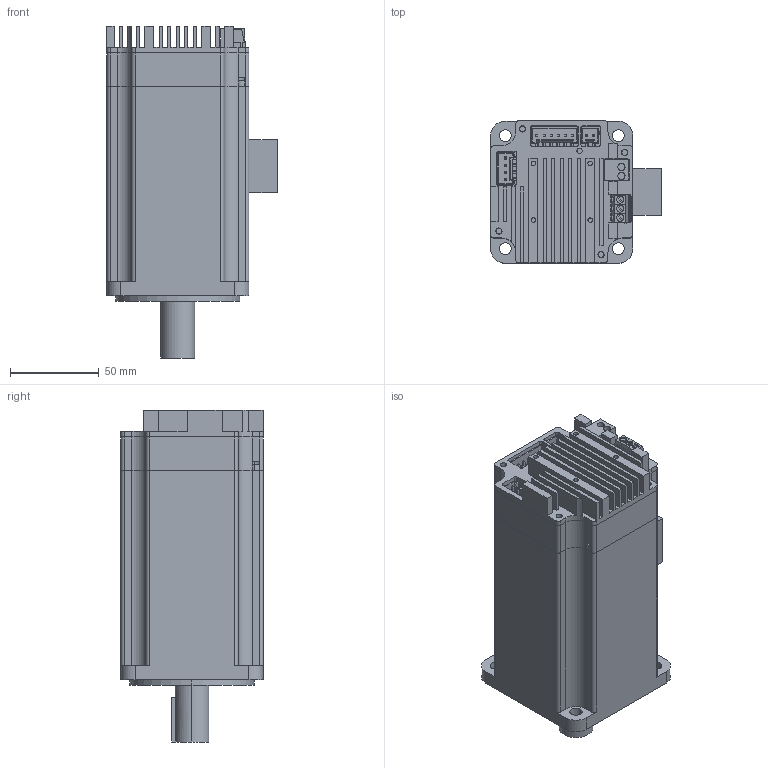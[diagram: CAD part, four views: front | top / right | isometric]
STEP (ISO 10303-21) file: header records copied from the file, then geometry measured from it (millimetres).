
FILE_DESCRIPTION (( 'STEP AP214' ), '1' );
FILE_NAME ('FCMT48P80B750W_VH.SLDASM.STEP', '2025-04-02T07:10:55', ( 'shaun' ), ( '' ), 'SwSTEP 2.0', 'SolidWorks 2020', '' );
FILE_SCHEMA (( 'AUTOMOTIVE_DESIGN' ));
Length unit declared in the file: millimetre
Products named in the file (7): SERVO80_DRIVER_V002_20250221; 80_750W_BRK; SERVO80_CONTROLLER_V002_20250221; SERVO80_LOWER; FCMT48P80B750W_VH.SLDASM; CONTROLLER_WHOLE; SERVO80_UPPER
Assembly tree (6 placements, depth 3):
  FCMT48P80B750W_VH.SLDASM
    80_750W_BRK
    CONTROLLER_WHOLE
      SERVO80_CONTROLLER_V002_20250221
      SERVO80_DRIVER_V002_20250221
      SERVO80_LOWER
      SERVO80_UPPER
Bounding box: 96 x 80 x 187 mm (x, y, z)
Volume: 783304.7 mm3; surface area: 167840.3 mm2
Topology: 241 solids, 241 shells, 3788 faces, 9624 edges, 6366 vertices
Faces by surface type: plane 2776, cylinder 1012
Entity records: 153817 total; most frequent: CARTESIAN_POINT 20085, ORIENTED_EDGE 19248, DIRECTION 19170, EDGE_CURVE 9624, LINE 7476, VECTOR 7476, VERTEX_POINT 6366, AXIS2_PLACEMENT_3D 5847
